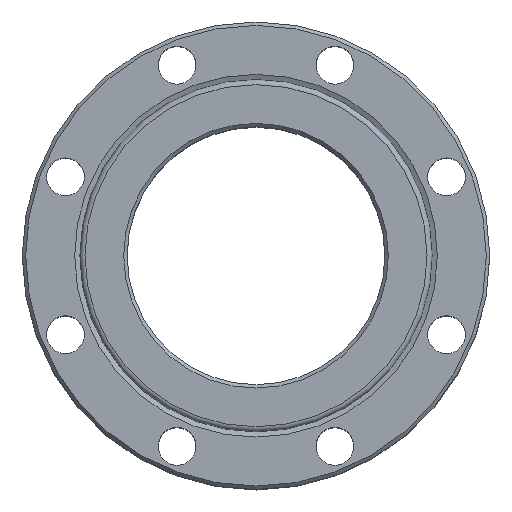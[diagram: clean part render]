
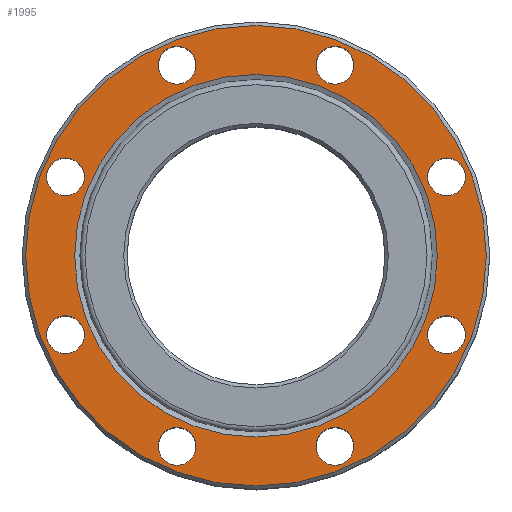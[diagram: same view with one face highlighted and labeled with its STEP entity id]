
A CAD part, top view. The second image highlights one B-rep face of the part: STEP entity #1995.
In plain terms, the highlighted planar face has unit normal (0, 0, 1).
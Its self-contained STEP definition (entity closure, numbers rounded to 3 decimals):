
#171=FACE_BOUND('',#393,.T.);
#172=FACE_BOUND('',#394,.T.);
#173=FACE_BOUND('',#395,.T.);
#174=FACE_BOUND('',#396,.T.);
#175=FACE_BOUND('',#397,.T.);
#176=FACE_BOUND('',#398,.T.);
#177=FACE_BOUND('',#399,.T.);
#178=FACE_BOUND('',#400,.T.);
#179=FACE_BOUND('',#401,.T.);
#188=PLANE('',#2160);
#258=FACE_OUTER_BOUND('',#392,.T.);
#392=EDGE_LOOP('',(#1348));
#393=EDGE_LOOP('',(#1349));
#394=EDGE_LOOP('',(#1350));
#395=EDGE_LOOP('',(#1351));
#396=EDGE_LOOP('',(#1352));
#397=EDGE_LOOP('',(#1353));
#398=EDGE_LOOP('',(#1354));
#399=EDGE_LOOP('',(#1355));
#400=EDGE_LOOP('',(#1356));
#401=EDGE_LOOP('',(#1357));
#714=CIRCLE('',#2159,134.);
#715=CIRCLE('',#2161,11.);
#716=CIRCLE('',#2162,11.);
#717=CIRCLE('',#2163,11.);
#718=CIRCLE('',#2164,11.);
#719=CIRCLE('',#2165,11.);
#720=CIRCLE('',#2166,11.);
#721=CIRCLE('',#2167,11.);
#722=CIRCLE('',#2168,11.);
#723=CIRCLE('',#2169,105.5);
#850=VERTEX_POINT('',#2955);
#851=VERTEX_POINT('',#2959);
#852=VERTEX_POINT('',#2961);
#853=VERTEX_POINT('',#2963);
#854=VERTEX_POINT('',#2965);
#855=VERTEX_POINT('',#2967);
#856=VERTEX_POINT('',#2969);
#857=VERTEX_POINT('',#2971);
#858=VERTEX_POINT('',#2973);
#859=VERTEX_POINT('',#2975);
#1046=EDGE_CURVE('',#850,#850,#714,.T.);
#1047=EDGE_CURVE('',#851,#851,#715,.T.);
#1048=EDGE_CURVE('',#852,#852,#716,.T.);
#1049=EDGE_CURVE('',#853,#853,#717,.T.);
#1050=EDGE_CURVE('',#854,#854,#718,.T.);
#1051=EDGE_CURVE('',#855,#855,#719,.T.);
#1052=EDGE_CURVE('',#856,#856,#720,.T.);
#1053=EDGE_CURVE('',#857,#857,#721,.T.);
#1054=EDGE_CURVE('',#858,#858,#722,.T.);
#1055=EDGE_CURVE('',#859,#859,#723,.T.);
#1348=ORIENTED_EDGE('',*,*,#1046,.F.);
#1349=ORIENTED_EDGE('',*,*,#1047,.F.);
#1350=ORIENTED_EDGE('',*,*,#1048,.F.);
#1351=ORIENTED_EDGE('',*,*,#1049,.F.);
#1352=ORIENTED_EDGE('',*,*,#1050,.F.);
#1353=ORIENTED_EDGE('',*,*,#1051,.F.);
#1354=ORIENTED_EDGE('',*,*,#1052,.F.);
#1355=ORIENTED_EDGE('',*,*,#1053,.F.);
#1356=ORIENTED_EDGE('',*,*,#1054,.F.);
#1357=ORIENTED_EDGE('',*,*,#1055,.T.);
#1995=ADVANCED_FACE('',(#258,#171,#172,#173,#174,#175,#176,#177,#178,#179),
#188,.F.);
#2159=AXIS2_PLACEMENT_3D('',#2957,#2432,#2433);
#2160=AXIS2_PLACEMENT_3D('',#2958,#2434,#2435);
#2161=AXIS2_PLACEMENT_3D('',#2960,#2436,#2437);
#2162=AXIS2_PLACEMENT_3D('',#2962,#2438,#2439);
#2163=AXIS2_PLACEMENT_3D('',#2964,#2440,#2441);
#2164=AXIS2_PLACEMENT_3D('',#2966,#2442,#2443);
#2165=AXIS2_PLACEMENT_3D('',#2968,#2444,#2445);
#2166=AXIS2_PLACEMENT_3D('',#2970,#2446,#2447);
#2167=AXIS2_PLACEMENT_3D('',#2972,#2448,#2449);
#2168=AXIS2_PLACEMENT_3D('',#2974,#2450,#2451);
#2169=AXIS2_PLACEMENT_3D('',#2976,#2452,#2453);
#2432=DIRECTION('center_axis',(0.,0.,-1.));
#2433=DIRECTION('ref_axis',(-1.,0.,0.));
#2434=DIRECTION('center_axis',(0.,0.,-1.));
#2435=DIRECTION('ref_axis',(-1.,0.,0.));
#2436=DIRECTION('center_axis',(0.,0.,1.));
#2437=DIRECTION('ref_axis',(1.,0.,0.));
#2438=DIRECTION('center_axis',(0.,0.,1.));
#2439=DIRECTION('ref_axis',(1.,0.,0.));
#2440=DIRECTION('center_axis',(0.,0.,1.));
#2441=DIRECTION('ref_axis',(1.,0.,0.));
#2442=DIRECTION('center_axis',(0.,0.,1.));
#2443=DIRECTION('ref_axis',(1.,0.,0.));
#2444=DIRECTION('center_axis',(0.,0.,1.));
#2445=DIRECTION('ref_axis',(1.,0.,0.));
#2446=DIRECTION('center_axis',(0.,0.,1.));
#2447=DIRECTION('ref_axis',(1.,0.,0.));
#2448=DIRECTION('center_axis',(0.,0.,1.));
#2449=DIRECTION('ref_axis',(1.,0.,0.));
#2450=DIRECTION('center_axis',(0.,0.,1.));
#2451=DIRECTION('ref_axis',(1.,0.,0.));
#2452=DIRECTION('center_axis',(0.,0.,-1.));
#2453=DIRECTION('ref_axis',(0.,1.,0.));
#2955=CARTESIAN_POINT('',(134.,0.,86.));
#2957=CARTESIAN_POINT('Origin',(0.,0.,86.));
#2958=CARTESIAN_POINT('Origin',(0.,0.,86.));
#2959=CARTESIAN_POINT('',(-121.866,45.922,86.));
#2960=CARTESIAN_POINT('Origin',(-110.866,45.922,86.));
#2961=CARTESIAN_POINT('',(-121.866,-45.922,86.));
#2962=CARTESIAN_POINT('Origin',(-110.866,-45.922,86.));
#2963=CARTESIAN_POINT('',(-56.922,-110.866,86.));
#2964=CARTESIAN_POINT('Origin',(-45.922,-110.866,86.));
#2965=CARTESIAN_POINT('',(34.922,-110.866,86.));
#2966=CARTESIAN_POINT('Origin',(45.922,-110.866,86.));
#2967=CARTESIAN_POINT('',(99.866,-45.922,86.));
#2968=CARTESIAN_POINT('Origin',(110.866,-45.922,86.));
#2969=CARTESIAN_POINT('',(99.866,45.922,86.));
#2970=CARTESIAN_POINT('Origin',(110.866,45.922,86.));
#2971=CARTESIAN_POINT('',(34.922,110.866,86.));
#2972=CARTESIAN_POINT('Origin',(45.922,110.866,86.));
#2973=CARTESIAN_POINT('',(-56.922,110.866,86.));
#2974=CARTESIAN_POINT('Origin',(-45.922,110.866,86.));
#2975=CARTESIAN_POINT('',(0.,-105.5,86.));
#2976=CARTESIAN_POINT('Origin',(0.,0.,86.));
